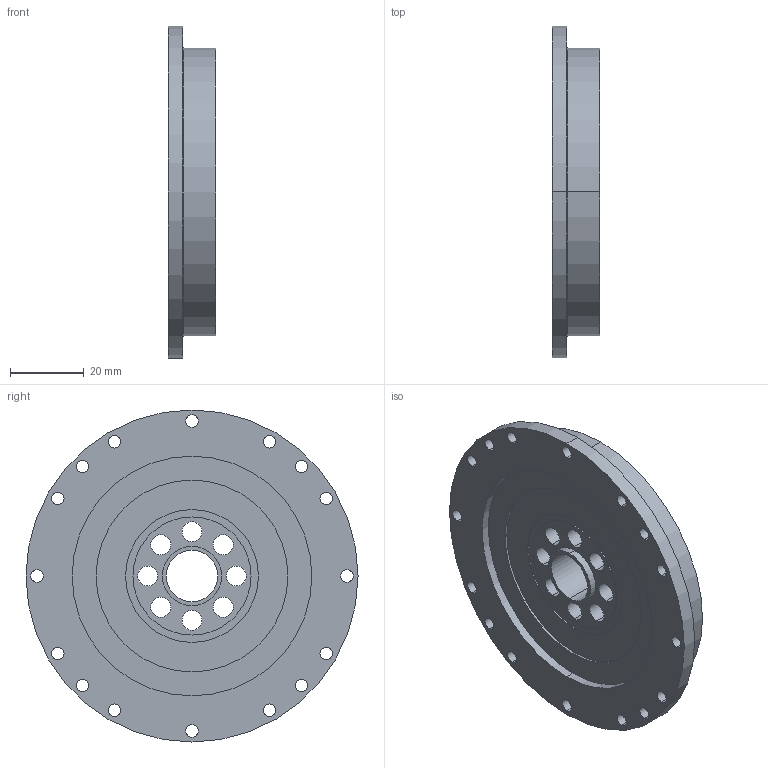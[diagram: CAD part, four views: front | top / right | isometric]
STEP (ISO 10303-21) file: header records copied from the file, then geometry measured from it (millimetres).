
FILE_DESCRIPTION (( 'STEP AP214' ), '1' );
FILE_NAME ('Torque_prirobnica.STEP', '2026-07-31T08:48:35', ( '' ), ( '' ), 'SwSTEP 2.0', 'SolidWorks 2024', '' );
FILE_SCHEMA (( 'AUTOMOTIVE_DESIGN' ));
Length unit declared in the file: millimetre
Products named in the file (3): PCB_28-05-2026_konektor; Torque_prirobnica; 519002D02_SG_Torque_flange_za_marketing
Assembly tree (2 placements, depth 2):
  Torque_prirobnica
    519002D02_SG_Torque_flange_za_marketing
    PCB_28-05-2026_konektor
Bounding box: 13 x 90 x 90 mm (x, y, z)
Volume: 54629.7 mm3; surface area: 18999.9 mm2
Topology: 2 solids, 2 shells, 453 faces, 1264 edges, 822 vertices
Faces by surface type: plane 336, cylinder 111, cone 4, torus 2
Entity records: 18642 total; most frequent: CARTESIAN_POINT 2641, ORIENTED_EDGE 2528, DIRECTION 2392, EDGE_CURVE 1264, VECTOR 1028, LINE 1028, VERTEX_POINT 822, AXIS2_PLACEMENT_3D 682
